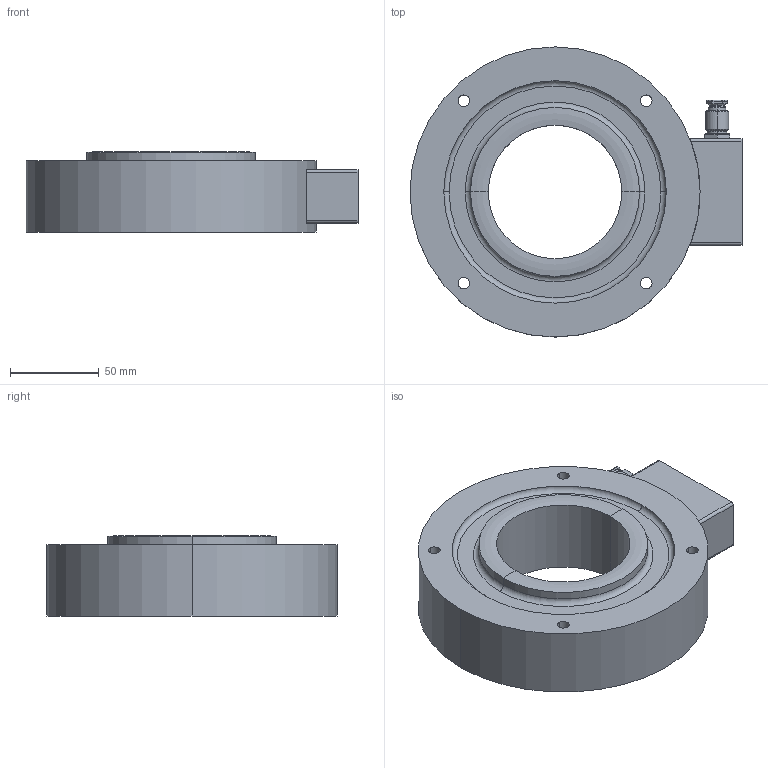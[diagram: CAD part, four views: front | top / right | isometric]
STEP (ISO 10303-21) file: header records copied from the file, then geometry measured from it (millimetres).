
FILE_DESCRIPTION((''),'1');
FILE_NAME('LRLA_50000-75000_kg.step','2018-01-10T16:15:51',(''),(''),'','','');
FILE_SCHEMA(('AUTOMOTIVE_DESIGN { 1 0 10303 214 1 1 1 1 }'));
Products named in the file (4): LRLA 50000-75000_kg; LRLA body 01; LRLA part 02; LRLA cable gland 01
Assembly tree (3 placements, depth 2):
  LRLA 50000-75000_kg
    LRLA body 01
    LRLA part 02
    LRLA cable gland 01
Bounding box: 186.55 x 163 x 44.95 mm (x, y, z)
Volume: 680976.7 mm3; surface area: 79484.8 mm2
Topology: 3 solids, 3 shells, 99 faces, 216 edges, 130 vertices
Faces by surface type: cylinder 47, plane 34, torus 12, cone 6
Entity records: 3653 total; most frequent: DIRECTION 526, CARTESIAN_POINT 485, ORIENTED_EDGE 432, EDGE_CURVE 216, AXIS2_PLACEMENT_3D 211, VERTEX_POINT 130, EDGE_LOOP 116, LINE 104
